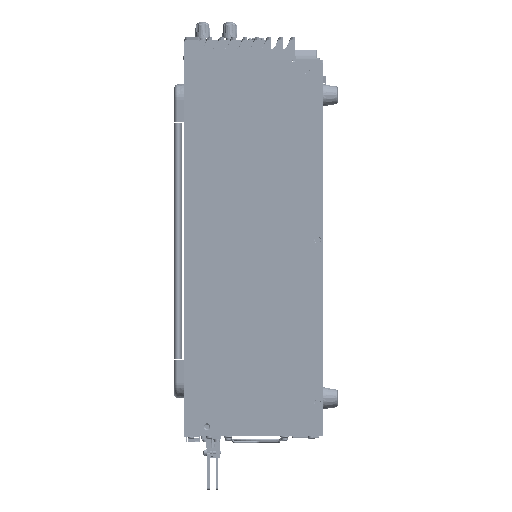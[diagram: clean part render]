
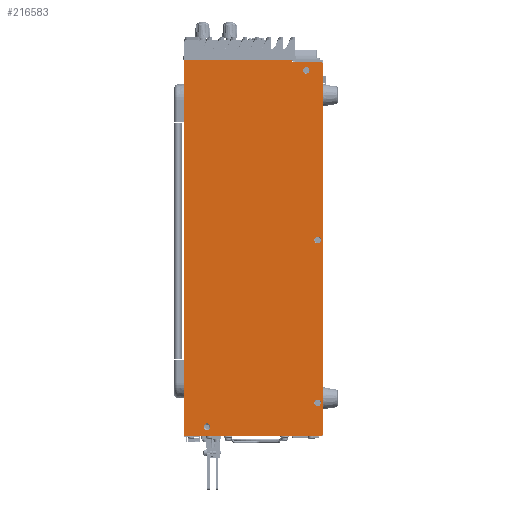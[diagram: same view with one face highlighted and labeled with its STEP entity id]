
A CAD part, left-side view. The second image highlights one B-rep face of the part: STEP entity #216583.
In plain terms, the highlighted planar face has unit normal (-1, 0, 0).
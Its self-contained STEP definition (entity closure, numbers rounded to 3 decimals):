
#214772=CARTESIAN_POINT('',(-106.2,2.5,-3.3));
#214773=DIRECTION('',(1.,0.,0.));
#214774=DIRECTION('',(0.,0.,1.));
#214775=AXIS2_PLACEMENT_3D('',#214772,#214773,#214774);
#214777=CARTESIAN_POINT('',(-106.2,2.5,-330.5));
#214778=DIRECTION('',(1.,0.,0.));
#214779=DIRECTION('',(0.,-1.,0.));
#214780=AXIS2_PLACEMENT_3D('',#214777,#214778,#214779);
#214782=DIRECTION('',(0.,1.,0.));
#214783=VECTOR('',#214782,120.5);
#214784=CARTESIAN_POINT('',(-106.2,2.5,-332.5));
#214785=LINE('',#214784,#214783);
#214786=DIRECTION('',(0.,-1.,0.));
#214787=VECTOR('',#214786,25.1);
#214788=CARTESIAN_POINT('',(-106.2,27.6,-1.3));
#214789=LINE('',#214788,#214787);
#214790=CARTESIAN_POINT('',(-106.2,5.2,-303.));
#214791=DIRECTION('',(-1.,0.,0.));
#214792=DIRECTION('',(0.,1.,0.));
#214793=AXIS2_PLACEMENT_3D('',#214790,#214791,#214792);
#214795=CARTESIAN_POINT('',(-106.2,5.2,-303.));
#214796=DIRECTION('',(-1.,0.,0.));
#214797=DIRECTION('',(0.,-1.,0.));
#214798=AXIS2_PLACEMENT_3D('',#214795,#214796,#214797);
#214800=CARTESIAN_POINT('',(-106.2,5.2,-159.));
#214801=DIRECTION('',(-1.,0.,0.));
#214802=DIRECTION('',(0.,1.,0.));
#214803=AXIS2_PLACEMENT_3D('',#214800,#214801,#214802);
#214805=CARTESIAN_POINT('',(-106.2,5.2,-159.));
#214806=DIRECTION('',(-1.,0.,0.));
#214807=DIRECTION('',(0.,-1.,0.));
#214808=AXIS2_PLACEMENT_3D('',#214805,#214806,#214807);
#214810=CARTESIAN_POINT('',(-106.2,15.2,-9.));
#214811=DIRECTION('',(-1.,0.,0.));
#214812=DIRECTION('',(0.,1.,0.));
#214813=AXIS2_PLACEMENT_3D('',#214810,#214811,#214812);
#214815=CARTESIAN_POINT('',(-106.2,15.2,-9.));
#214816=DIRECTION('',(-1.,0.,0.));
#214817=DIRECTION('',(0.,-1.,0.));
#214818=AXIS2_PLACEMENT_3D('',#214815,#214816,#214817);
#214820=CARTESIAN_POINT('',(-106.2,103.,-324.));
#214821=DIRECTION('',(-1.,0.,0.));
#214822=DIRECTION('',(0.,1.,0.));
#214823=AXIS2_PLACEMENT_3D('',#214820,#214821,#214822);
#214825=CARTESIAN_POINT('',(-106.2,103.,-324.));
#214826=DIRECTION('',(-1.,0.,0.));
#214827=DIRECTION('',(0.,-1.,0.));
#214828=AXIS2_PLACEMENT_3D('',#214825,#214826,#214827);
#214842=DIRECTION('',(0.,0.,1.));
#214843=VECTOR('',#214842,1.3);
#214844=CARTESIAN_POINT('',(-106.2,27.6,-1.3));
#214845=LINE('',#214844,#214843);
#214854=DIRECTION('',(0.,1.,0.));
#214855=VECTOR('',#214854,95.4);
#214856=CARTESIAN_POINT('',(-106.2,27.6,0.));
#214857=LINE('',#214856,#214855);
#214867=DIRECTION('',(0.,0.,-1.));
#214868=VECTOR('',#214867,332.5);
#214869=CARTESIAN_POINT('',(-106.2,123.,0.));
#214870=LINE('',#214869,#214868);
#216014=DIRECTION('',(0.,0.,1.));
#216015=VECTOR('',#216014,327.2);
#216016=CARTESIAN_POINT('',(-106.2,0.5,-330.5));
#216017=LINE('',#216016,#216015);
#216146=CARTESIAN_POINT('',(-106.2,2.5,-1.3));
#216147=CARTESIAN_POINT('',(-106.2,0.5,-3.3));
#216148=VERTEX_POINT('',#216146);
#216149=VERTEX_POINT('',#216147);
#216150=CARTESIAN_POINT('',(-106.2,0.5,-330.5));
#216151=VERTEX_POINT('',#216150);
#216152=CARTESIAN_POINT('',(-106.2,2.5,-332.5));
#216153=VERTEX_POINT('',#216152);
#216154=CARTESIAN_POINT('',(-106.2,123.,-332.5));
#216155=VERTEX_POINT('',#216154);
#216156=CARTESIAN_POINT('',(-106.2,123.,0.));
#216157=VERTEX_POINT('',#216156);
#216158=CARTESIAN_POINT('',(-106.2,27.6,0.));
#216159=VERTEX_POINT('',#216158);
#216160=CARTESIAN_POINT('',(-106.2,27.6,-1.3));
#216161=VERTEX_POINT('',#216160);
#216162=CARTESIAN_POINT('',(-106.2,8.093,-303.));
#216163=CARTESIAN_POINT('',(-106.2,2.307,-303.));
#216164=VERTEX_POINT('',#216162);
#216165=VERTEX_POINT('',#216163);
#216166=CARTESIAN_POINT('',(-106.2,8.093,-159.));
#216167=CARTESIAN_POINT('',(-106.2,2.307,-159.));
#216168=VERTEX_POINT('',#216166);
#216169=VERTEX_POINT('',#216167);
#216170=CARTESIAN_POINT('',(-106.2,18.093,-9.));
#216171=CARTESIAN_POINT('',(-106.2,12.307,-9.));
#216172=VERTEX_POINT('',#216170);
#216173=VERTEX_POINT('',#216171);
#216174=CARTESIAN_POINT('',(-106.2,105.893,-324.));
#216175=CARTESIAN_POINT('',(-106.2,100.107,-324.));
#216176=VERTEX_POINT('',#216174);
#216177=VERTEX_POINT('',#216175);
#216536=CARTESIAN_POINT('',(-106.2,123.,0.));
#216537=DIRECTION('',(-1.,0.,0.));
#216538=DIRECTION('',(0.,-1.,0.));
#216539=AXIS2_PLACEMENT_3D('',#216536,#216537,#216538);
#216540=PLANE('',#216539);
#216542=ORIENTED_EDGE('',*,*,#216541,.T.);
#216544=ORIENTED_EDGE('',*,*,#216543,.F.);
#216546=ORIENTED_EDGE('',*,*,#216545,.T.);
#216548=ORIENTED_EDGE('',*,*,#216547,.T.);
#216550=ORIENTED_EDGE('',*,*,#216549,.F.);
#216552=ORIENTED_EDGE('',*,*,#216551,.F.);
#216554=ORIENTED_EDGE('',*,*,#216553,.F.);
#216556=ORIENTED_EDGE('',*,*,#216555,.T.);
#216557=EDGE_LOOP('',(#216542,#216544,#216546,#216548,#216550,#216552,#216554,
#216556));
#216558=FACE_OUTER_BOUND('',#216557,.F.);
#216560=ORIENTED_EDGE('',*,*,#216559,.T.);
#216562=ORIENTED_EDGE('',*,*,#216561,.T.);
#216563=EDGE_LOOP('',(#216560,#216562));
#216564=FACE_BOUND('',#216563,.F.);
#216566=ORIENTED_EDGE('',*,*,#216565,.T.);
#216568=ORIENTED_EDGE('',*,*,#216567,.T.);
#216569=EDGE_LOOP('',(#216566,#216568));
#216570=FACE_BOUND('',#216569,.F.);
#216572=ORIENTED_EDGE('',*,*,#216571,.T.);
#216574=ORIENTED_EDGE('',*,*,#216573,.T.);
#216575=EDGE_LOOP('',(#216572,#216574));
#216576=FACE_BOUND('',#216575,.F.);
#216578=ORIENTED_EDGE('',*,*,#216577,.T.);
#216580=ORIENTED_EDGE('',*,*,#216579,.T.);
#216581=EDGE_LOOP('',(#216578,#216580));
#216582=FACE_BOUND('',#216581,.F.);
#216583=ADVANCED_FACE('',(#216558,#216564,#216570,#216576,#216582),#216540,.T.);
#214776=CIRCLE('',#214775,2.);
#214781=CIRCLE('',#214780,2.);
#214794=CIRCLE('',#214793,2.893);
#214799=CIRCLE('',#214798,2.893);
#214804=CIRCLE('',#214803,2.893);
#214809=CIRCLE('',#214808,2.893);
#214814=CIRCLE('',#214813,2.893);
#214819=CIRCLE('',#214818,2.893);
#214824=CIRCLE('',#214823,2.893);
#214829=CIRCLE('',#214828,2.893);
#216541=EDGE_CURVE('',#216148,#216149,#214776,.T.);
#216543=EDGE_CURVE('',#216151,#216149,#216017,.T.);
#216545=EDGE_CURVE('',#216151,#216153,#214781,.T.);
#216547=EDGE_CURVE('',#216153,#216155,#214785,.T.);
#216549=EDGE_CURVE('',#216157,#216155,#214870,.T.);
#216551=EDGE_CURVE('',#216159,#216157,#214857,.T.);
#216553=EDGE_CURVE('',#216161,#216159,#214845,.T.);
#216555=EDGE_CURVE('',#216161,#216148,#214789,.T.);
#216559=EDGE_CURVE('',#216164,#216165,#214794,.T.);
#216561=EDGE_CURVE('',#216165,#216164,#214799,.T.);
#216565=EDGE_CURVE('',#216168,#216169,#214804,.T.);
#216567=EDGE_CURVE('',#216169,#216168,#214809,.T.);
#216571=EDGE_CURVE('',#216172,#216173,#214814,.T.);
#216573=EDGE_CURVE('',#216173,#216172,#214819,.T.);
#216577=EDGE_CURVE('',#216176,#216177,#214824,.T.);
#216579=EDGE_CURVE('',#216177,#216176,#214829,.T.);
